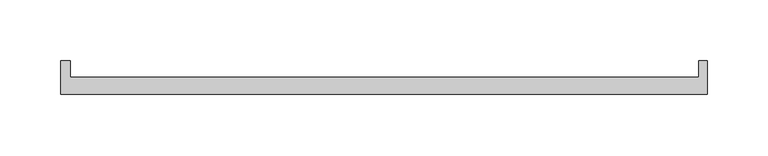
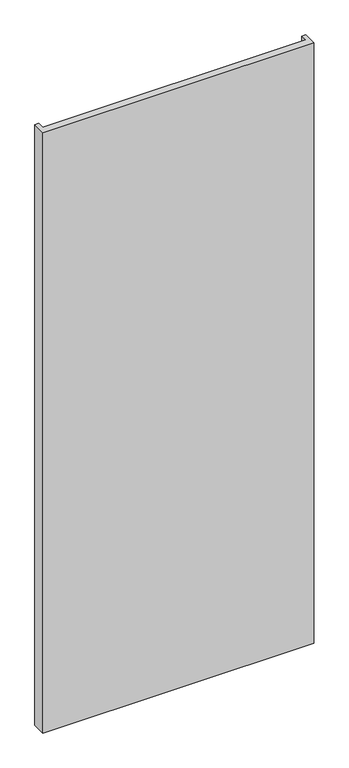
"""IFC4 building model written with IfcOpenShell, lengths in millimetres: plate geometry, Walls_Curtain-Walls_Danpal_AIRPT : Walls_Curtain-Walls_Danpal_AIRPT."""

from ifc_helpers import new_model, si_unit, origin, origin_with_axes, place, context, project, spatial, polyline, outline, extrude, source, transform, mapped, element, save


def plate_366c9034(model_context):
    return source(origin(), model_context, "Body", "SweptSolid", [
        extrude(outline(polyline([(-257.3806431, 14.1228126), (258.0762525, 14.1228126), (258.0762525, 27.3924397), (265.0762525, 27.3924397), (265.0762525, 0.0), (-265.1, 0.0), (-265.1, 27.3924397), (-257.3806431, 27.3924397), (-257.3806431, 14.1228126)])), origin_with_axes(), (0.0, 0.0, 1.0), 1243.8319078),
    ])


if __name__ == "__main__":
    model = new_model("IFC4")
    model_context = context("Model", 3, world=origin())
    ifc_project = project(units=[si_unit("LENGTHUNIT", "METRE", prefix="MILLI")], contexts=[model_context])
    site = spatial("IfcSite", under=ifc_project)
    building = spatial("IfcBuilding", under=site)
    placement = place(None, origin())
    plate_shape = plate_366c9034(model_context)
    element("IfcPlate", 1, ObjectType="Walls_Curtain-Walls_Danpal_AIRPT : Walls_Curtain-Walls_Danpal_AIRPT", at=placement, inside=building, context=model_context, shape_type="MappedRepresentation", body=[
        mapped(plate_shape, transform((0.0, 0.0, 0.0), x_axis=(1.0, 0.0, 0.0), y_axis=(0.0, 1.0, 0.0), z_axis=(0.0, 0.0, 1.0))),
    ])
    save(model, "model.ifc")
